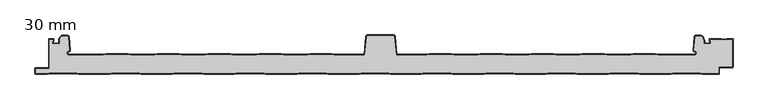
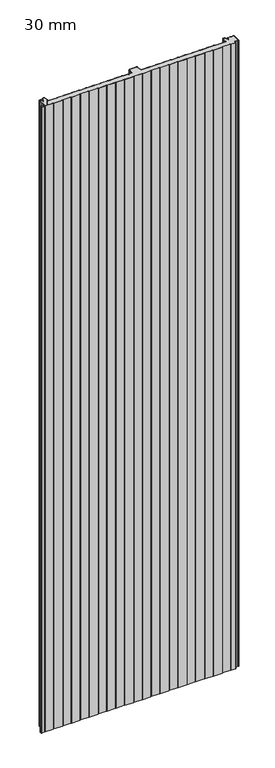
"""IFC4 building model written with IfcOpenShell, lengths in millimetres: plate geometry, HIANSA PANEL - H20.F01.002-PANELES DE CUBIERTA CON TAPAJUNTA - CUB 3GR - Panel de Muro Cortina : 30 mm."""

from ifc_helpers import new_model, si_unit, point, frame_2d, origin, origin_with_axes, place, context, project, spatial, polyline, circle_curve, trimmed, segment, composite_curve, outline, extrude, source, transform, mapped, element, save


def plate_30_mm_228ccd44(model_context):
    return source(origin(), model_context, "Body", "SweptSolid", [
        extrude(outline(polyline([(512.4706969, 30.1927851), (512.9884902, 29.425125), (512.9884902, 16.25), (512.4690523, 15.5081658), (512.4706969, 30.1927851)])), origin_with_axes(), (0.0, 0.0, 1.0), 3390.8509027),
        extrude(outline(polyline([(-486.0046625, 15.4267187), (-486.4799842, 16.25), (-486.4799842, 29.4251524), (-486.0046625, 30.2484337), (-486.0046625, 15.4267187)])), origin_with_axes(), (0.0, 0.0, 1.0), 3390.8509027),
        extrude(outline(composite_curve([segment(trimmed(circle_curve(frame_2d((-486.9813922, 9.7640482)), 0.998858), [point((-485.9825353, 9.7655207))], [point((-486.9813922, 8.7651902))], False, "CARTESIAN"), True, "CONTINUOUS"), segment(polyline([(-486.9813922, 8.7651902), (-505.4768583, 8.7651905)]), True, "CONTINUOUS"), segment(trimmed(circle_curve(frame_2d((-505.4798404, 8.2649415)), 0.5002578), [point((-505.4768583, 8.7651905))], [point((-505.9800982, 8.2649415))], True, "CARTESIAN"), True, "CONTINUOUS"), segment(polyline([(-505.9800982, 8.2649415), (-505.9800982, 1.0000206)]), True, "CONTINUOUS"), segment(trimmed(circle_curve(frame_2d((-505.4800365, 1.0000206)), 0.5000618), [point((-505.9800982, 1.0000206))], [point((-505.4800365, 0.4999588))], True, "CARTESIAN"), True, "CONTINUOUS"), segment(polyline([(-505.4800365, 0.4999588), (-488.3212473, 0.4999588), (-485.3211238, 1.5), (-445.1588462, 1.5), (-442.1588462, 0.5), (-397.3211238, 0.5), (-394.3211238, 1.5), (-354.1588462, 1.5), (-351.1588462, 0.5), (-306.3211238, 0.5), (-303.3211238, 1.5), (-263.1588462, 1.5), (-260.1588462, 0.5), (-215.3211238, 0.5), (-212.3211238, 1.5), (-172.1588462, 1.5), (-169.1588462, 0.5), (-124.3211238, 0.5), (-121.3211238, 1.5), (-81.1588462, 1.5), (-78.1588462, 0.5), (-33.3211238, 0.5), (-30.3211238, 1.5), (9.8411538, 1.5), (12.8411538, 0.5), (57.6788762, 0.5), (60.6788762, 1.5), (100.8411538, 1.5), (103.8411538, 0.5), (148.6788762, 0.5), (151.6788762, 1.5), (191.8411538, 1.5), (194.8411538, 0.5), (239.6788762, 0.5), (242.6788762, 1.5), (282.8411538, 1.5), (285.8411538, 0.5), (330.6788762, 0.5), (333.6788762, 1.5), (373.8411538, 1.5), (376.8411538, 0.5), (421.6788762, 0.5), (424.6788762, 1.5), (464.8411538, 1.5), (467.8411538, 0.5), (491.98849, 0.5)]), True, "CONTINUOUS"), segment(trimmed(circle_curve(frame_2d((491.98849, 1.0)), 0.5), [point((491.98849, 0.5))], [point((492.48849, 1.0))], True, "CARTESIAN"), True, "CONTINUOUS"), segment(polyline([(492.48849, 1.0), (492.48849, 9.1271447)]), True, "CONTINUOUS"), segment(trimmed(circle_curve(frame_2d((493.48849, 9.1271447)), 1.0), [point((492.48849, 9.1271447))], [point((493.48849, 10.1271447))], False, "CARTESIAN"), True, "CONTINUOUS"), segment(polyline([(493.48849, 10.1271447), (511.9854349, 10.1271447)]), True, "CONTINUOUS"), segment(trimmed(circle_curve(frame_2d((511.98849, 10.6271354)), 0.5), [point((511.9854349, 10.1271447))], [point((512.48849, 10.6271354))], True, "CARTESIAN"), True, "CONTINUOUS"), segment(polyline([(512.48849, 10.6271354), (512.48849, 15.535926), (512.98849, 16.25), (512.98849, 10.6271354)]), True, "CONTINUOUS"), segment(trimmed(circle_curve(frame_2d((511.98849, 10.6271354)), 1.0), [point((512.98849, 10.6271354))], [point((511.98849, 9.6271354))], False, "CARTESIAN"), True, "CONTINUOUS"), segment(polyline([(511.98849, 9.6271354), (493.4915451, 9.6271354)]), True, "CONTINUOUS"), segment(trimmed(circle_curve(frame_2d((493.48849, 9.1271447)), 0.5), [point((493.4915451, 9.6271354))], [point((492.98849, 9.1271447))], True, "CARTESIAN"), True, "CONTINUOUS"), segment(polyline([(492.98849, 9.1271447), (492.98849, 1.0)]), True, "CONTINUOUS"), segment(trimmed(circle_curve(frame_2d((491.98849, 1.0)), 1.0), [point((492.98849, 1.0))], [point((491.98849, 0.0))], False, "CARTESIAN"), True, "CONTINUOUS"), segment(polyline([(491.98849, 0.0), (467.760015, 0.0), (464.760015, 1.0), (424.760015, 1.0), (421.760015, 0.0), (376.760015, 0.0), (373.760015, 1.0), (333.760015, 1.0), (330.760015, 0.0), (285.760015, 0.0), (282.760015, 1.0), (242.760015, 1.0), (239.760015, 0.0), (194.760015, 0.0), (191.760015, 1.0), (151.760015, 1.0), (148.760015, 0.0), (103.760015, 0.0), (100.760015, 1.0), (60.760015, 1.0), (57.760015, 0.0), (12.760015, 0.0), (9.760015, 1.0), (-30.239985, 1.0), (-33.239985, 0.0), (-78.239985, 0.0), (-81.239985, 1.0), (-121.239985, 1.0), (-124.239985, 0.0), (-169.239985, 0.0), (-172.239985, 1.0), (-212.239985, 1.0), (-215.239985, 0.0), (-260.239985, 0.0), (-263.239985, 1.0), (-303.239985, 1.0), (-306.239985, 0.0), (-351.239985, 0.0), (-354.239985, 1.0), (-394.239985, 1.0), (-397.239985, 0.0), (-442.239985, 0.0), (-445.239985, 1.0), (-485.239985, 1.0), (-488.239985, 0.0), (-505.479985, 0.0)]), True, "CONTINUOUS"), segment(trimmed(circle_curve(frame_2d((-505.479985, 1.0)), 1.0), [point((-505.479985, 0.0))], [point((-506.479985, 1.0))], False, "CARTESIAN"), True, "CONTINUOUS"), segment(polyline([(-506.479985, 1.0), (-506.479985, 8.262651)]), True, "CONTINUOUS"), segment(trimmed(circle_curve(frame_2d((-505.479985, 8.262651)), 1.0), [point((-506.479985, 8.262651))], [point((-505.479985, 9.262651))], False, "CARTESIAN"), True, "CONTINUOUS"), segment(polyline([(-505.479985, 9.262651), (-486.9830395, 9.262651)]), True, "CONTINUOUS"), segment(trimmed(circle_curve(frame_2d((-486.9799843, 9.7626416)), 0.5), [point((-486.9830395, 9.262651))], [point((-486.4799843, 9.7626416))], True, "CARTESIAN"), True, "CONTINUOUS"), segment(polyline([(-486.4799843, 9.7626416), (-486.4799843, 16.25), (-485.9825353, 15.388393), (-485.9825353, 9.7655207)]), True, "CONTINUOUS")], self_intersect=False)), origin_with_axes(), (0.0, 0.0, 1.0), 3390.8509027),
        extrude(outline(composite_curve([segment(polyline([(-480.1607345, 45.8366875), (-480.1607345, 47.1797549), (-479.1700595, 49.1432549), (-479.1700595, 51.48175), (-485.9846475, 51.48175), (-485.9846475, 30.283101), (-486.4800002, 29.425125), (-486.4800002, 51.2318073)]), True, "CONTINUOUS"), segment(trimmed(circle_curve(frame_2d((-485.7368552, 51.2318073)), 0.743145), [point((-486.4800002, 51.2318073))], [point((-485.7922599, 51.972884))], False, "CARTESIAN"), True, "CONTINUOUS"), segment(polyline([(-485.7922599, 51.972884), (-479.4177693, 51.972884)]), True, "CONTINUOUS"), segment(trimmed(circle_curve(frame_2d((-479.4177693, 51.2297247)), 0.7431593), [point((-479.4177693, 51.972884))], [point((-478.6746398, 51.2363816))], False, "CARTESIAN"), True, "CONTINUOUS"), segment(polyline([(-478.6746398, 51.2363816), (-478.6746398, 49.0275379), (-479.665397, 47.063875), (-479.665397, 45.59125), (-471.61986, 45.59125), (-471.61986, 51.9404769), (-469.4341541, 54.7321629)]), True, "CONTINUOUS"), segment(trimmed(circle_curve(frame_2d((-464.3237111, 51.5831348)), 6.0027498), [point((-469.4341541, 54.7321629))], [point((-466.9668911, 56.972625))], False, "CARTESIAN"), True, "CONTINUOUS"), segment(polyline([(-466.9668911, 56.972625), (-459.1529508, 56.972625)]), True, "CONTINUOUS"), segment(trimmed(circle_curve(frame_2d((-459.1529508, 54.4937014)), 2.4789236), [point((-459.1529508, 56.972625))], [point((-456.687521, 54.752))], False, "CARTESIAN"), True, "CONTINUOUS"), segment(polyline([(-456.687521, 54.752), (-454.7873912, 35.068375)]), True, "CONTINUOUS"), segment(trimmed(circle_curve(frame_2d((-456.7403792, 34.8798462)), 1.9620666), [point((-454.7873912, 35.068375))], [point((-456.759735, 32.917875))], False, "CARTESIAN"), True, "CONTINUOUS"), segment(trimmed(circle_curve(frame_2d((-456.7790608, 30.9589375)), 1.9590328), [point((-456.759735, 32.917875))], [point((-456.759735, 29.0))], True, "CARTESIAN"), True, "CONTINUOUS"), segment(polyline([(-456.759735, 29.0), (-406.739985, 29.0), (-402.489985, 30.0), (-370.429985, 30.0), (-366.179985, 29.0), (-332.299985, 29.0), (-328.049985, 30.0), (-295.989985, 30.0), (-291.739985, 29.0), (-257.859985, 29.0), (-253.609985, 30.0), (-221.549985, 30.0), (-217.299985, 29.0), (-183.419985, 29.0), (-179.169985, 30.0), (-147.109985, 30.0), (-142.859985, 29.0), (-108.979985, 29.0), (-104.729985, 30.0), (-73.3895534, 30.0), (-69.1395534, 29.0), (-25.6851838, 29.0), (-23.3914157, 55.2178894)]), True, "CONTINUOUS"), segment(trimmed(circle_curve(frame_2d((-20.9009289, 55.0)), 2.5), [point((-23.3914157, 55.2178894))], [point((-20.9009289, 57.5))], False, "CARTESIAN"), True, "CONTINUOUS"), segment(polyline([(-20.9009289, 57.5), (17.2651042, 57.5)]), True, "CONTINUOUS"), segment(trimmed(circle_curve(frame_2d((17.2651042, 55.0000821)), 2.4999179), [point((17.2651042, 57.5))], [point((19.7555174, 55.2178706))], False, "CARTESIAN"), True, "CONTINUOUS"), segment(polyline([(19.7555174, 55.2178706), (22.0482906, 29.0), (65.9474446, 29.0), (70.1974446, 30.0), (101.7703756, 30.0), (106.0203756, 29.0), (139.9003756, 29.0), (144.1503756, 30.0), (176.2103756, 30.0), (180.4603756, 29.0), (214.3403756, 29.0), (218.5903756, 30.0), (250.6503756, 30.0), (254.9003756, 29.0), (288.7803756, 29.0), (293.0303756, 30.0), (325.0903756, 30.0), (329.3403756, 29.0), (363.2203756, 29.0), (367.4703756, 30.0), (399.5303756, 30.0), (403.7803756, 29.0), (456.5203756, 29.0)]), True, "CONTINUOUS"), segment(trimmed(circle_curve(frame_2d((456.542308, 30.9589395)), 1.9590623), [point((456.5203756, 29.0))], [point((456.520015, 32.917875))], True, "CARTESIAN"), True, "CONTINUOUS"), segment(trimmed(circle_curve(frame_2d((456.5006593, 34.8798462)), 1.9620666), [point((456.520015, 32.917875))], [point((454.5476712, 35.068375))], False, "CARTESIAN"), True, "CONTINUOUS"), segment(polyline([(454.5476712, 35.068375), (456.4478011, 54.752)]), True, "CONTINUOUS"), segment(trimmed(circle_curve(frame_2d((458.9132308, 54.4937014)), 2.4789236), [point((456.4478011, 54.752))], [point((458.9132308, 56.972625))], False, "CARTESIAN"), True, "CONTINUOUS"), segment(polyline([(458.9132308, 56.972625), (466.7271712, 56.972625)]), True, "CONTINUOUS"), segment(trimmed(circle_curve(frame_2d((464.0839912, 51.5831348)), 6.0027498), [point((466.7271712, 56.972625))], [point((469.1944341, 54.7321629))], False, "CARTESIAN"), True, "CONTINUOUS"), segment(polyline([(469.1944341, 54.7321629), (471.38014, 48.8899572), (471.38014, 45.592625), (479.185403, 45.592625), (479.185403, 47.06525), (478.194728, 49.02875), (478.194728, 51.2363125)]), True, "CONTINUOUS"), segment(trimmed(circle_curve(frame_2d((478.9377343, 51.2295883)), 0.7430367), [point((478.194728, 51.2363125))], [point((478.9377343, 51.972625))], False, "CARTESIAN"), True, "CONTINUOUS"), segment(polyline([(478.9377343, 51.972625), (495.5315405, 51.972625), (499.4942405, 50.990875), (503.4569405, 51.972625), (512.3449935, 51.972625)]), True, "CONTINUOUS"), segment(trimmed(circle_curve(frame_2d((512.2454838, 51.2363125)), 0.7430063), [point((512.3449935, 51.972625))], [point((512.98849, 51.2363125))], False, "CARTESIAN"), True, "CONTINUOUS"), segment(polyline([(512.98849, 51.2363125), (512.98849, 29.425125), (512.4931525, 30.159493), (512.4931525, 51.48175), (503.5179194, 51.48175), (499.4942405, 50.4848926), (495.4705617, 51.48175), (478.6900655, 51.48175), (478.6900655, 49.1446299), (479.6807405, 47.1811299), (479.6807405, 45.8380625)]), True, "CONTINUOUS"), segment(trimmed(circle_curve(frame_2d((478.9377343, 45.8447867)), 0.7430367), [point((479.6807405, 45.8380625))], [point((478.9377343, 45.10175))], False, "CARTESIAN"), True, "CONTINUOUS"), segment(polyline([(478.9377343, 45.10175), (471.6278088, 45.10175)]), True, "CONTINUOUS"), segment(trimmed(circle_curve(frame_2d((471.6211452, 45.8380625)), 0.7363427), [point((471.6278088, 45.10175))], [point((470.8848025, 45.8380625))], False, "CARTESIAN"), True, "CONTINUOUS"), segment(polyline([(470.8848025, 45.8380625), (470.8848025, 48.8899572), (468.7009815, 54.6893803)]), True, "CONTINUOUS"), segment(trimmed(circle_curve(frame_2d((464.100425, 51.6061058)), 5.5382039), [point((468.7009815, 54.6893803))], [point((466.7271712, 56.48175))], True, "CARTESIAN"), True, "CONTINUOUS"), segment(polyline([(466.7271712, 56.48175), (458.9132308, 56.48175)]), True, "CONTINUOUS"), segment(trimmed(circle_curve(frame_2d((458.8972089, 54.5163993)), 1.965416), [point((458.9132308, 56.48175))], [point((456.940887, 54.70525))], True, "CARTESIAN"), True, "CONTINUOUS"), segment(polyline([(456.940887, 54.70525), (455.0407572, 35.021625)]), True, "CONTINUOUS"), segment(trimmed(circle_curve(frame_2d((456.5066883, 34.8813199)), 1.4726302), [point((455.0407572, 35.021625))], [point((456.520015, 33.40875))], True, "CARTESIAN"), True, "CONTINUOUS"), segment(trimmed(circle_curve(frame_2d((456.542227, 30.954375)), 2.4544755), [point((456.520015, 33.40875))], [point((456.520015, 28.5))], False, "CARTESIAN"), True, "CONTINUOUS"), segment(polyline([(456.520015, 28.5), (403.7219839, 28.5), (399.4719839, 29.5), (367.5280462, 29.5), (363.2780462, 28.5), (329.2819839, 28.5), (325.0319839, 29.5), (293.0880462, 29.5), (288.8380462, 28.5), (254.8419839, 28.5), (250.5919839, 29.5), (218.6480462, 29.5), (214.3980462, 28.5), (180.4019839, 28.5), (176.1519839, 29.5), (144.2080462, 29.5), (139.9580462, 28.5), (105.9619839, 28.5), (101.7119839, 29.5), (70.2558363, 29.5), (66.0058363, 28.5), (21.5901077, 28.5), (19.2574184, 55.1743115)]), True, "CONTINUOUS"), segment(trimmed(circle_curve(frame_2d((17.2651042, 55.0000821)), 1.9999179), [point((19.2574184, 55.1743115))], [point((17.2651042, 57.0))], True, "CARTESIAN"), True, "CONTINUOUS"), segment(polyline([(17.2651042, 57.0), (-20.9009289, 57.0)]), True, "CONTINUOUS"), segment(trimmed(circle_curve(frame_2d((-20.9009289, 55.0)), 2.0), [point((-20.9009289, 57.0))], [point((-22.8933183, 55.1743115))], True, "CARTESIAN"), True, "CONTINUOUS"), segment(polyline([(-22.8933183, 55.1743115), (-25.2270182, 28.5), (-69.1979451, 28.5), (-73.4479451, 29.5), (-104.6719538, 29.5), (-108.9219538, 28.5), (-142.9180161, 28.5), (-147.1680161, 29.5), (-179.1119538, 29.5), (-183.3619538, 28.5), (-217.3580161, 28.5), (-221.6080161, 29.5), (-253.5519538, 29.5), (-257.8019538, 28.5), (-291.7980161, 28.5), (-296.0480161, 29.5), (-327.9919538, 29.5), (-332.2419538, 28.5), (-366.2380161, 28.5), (-370.4880161, 29.5), (-402.4319538, 29.5), (-406.6819538, 28.5), (-456.759735, 28.5)]), True, "CONTINUOUS"), segment(trimmed(circle_curve(frame_2d((-456.781947, 30.954375)), 2.4544755), [point((-456.759735, 28.5))], [point((-456.759735, 33.40875))], False, "CARTESIAN"), True, "CONTINUOUS"), segment(trimmed(circle_curve(frame_2d((-456.7464083, 34.8813199)), 1.4726302), [point((-456.759735, 33.40875))], [point((-455.2804771, 35.021625))], True, "CARTESIAN"), True, "CONTINUOUS"), segment(polyline([(-455.2804771, 35.021625), (-457.180607, 54.70525)]), True, "CONTINUOUS"), segment(trimmed(circle_curve(frame_2d((-459.1369289, 54.5163993)), 1.965416), [point((-457.180607, 54.70525))], [point((-459.1529508, 56.48175))], True, "CARTESIAN"), True, "CONTINUOUS"), segment(polyline([(-459.1529508, 56.48175), (-466.9668911, 56.48175)]), True, "CONTINUOUS"), segment(trimmed(circle_curve(frame_2d((-464.340145, 51.6061058)), 5.5382039), [point((-466.9668911, 56.48175))], [point((-468.9407015, 54.6893803))], True, "CARTESIAN"), True, "CONTINUOUS"), segment(polyline([(-468.9407015, 54.6893803), (-471.1245225, 51.9404769), (-471.1245225, 45.8366875)]), True, "CONTINUOUS"), segment(trimmed(circle_curve(frame_2d((-471.8608651, 45.8366875)), 0.7363427), [point((-471.1245225, 45.8366875))], [point((-471.8675287, 45.100375))], False, "CARTESIAN"), True, "CONTINUOUS"), segment(polyline([(-471.8675287, 45.100375), (-479.4177282, 45.100375)]), True, "CONTINUOUS"), segment(trimmed(circle_curve(frame_2d((-479.4177282, 45.8434117)), 0.7430367), [point((-479.4177282, 45.100375))], [point((-480.1607345, 45.8366875))], False, "CARTESIAN"), True, "CONTINUOUS")], self_intersect=False)), origin_with_axes(), (0.0, 0.0, 1.0), 3390.8509027),
        extrude(outline(composite_curve([segment(trimmed(circle_curve(frame_2d((-479.4377434, 45.8434117)), 0.7430367), [point((-480.1807496, 45.8366875))], [point((-479.4377434, 45.100375))], True, "CARTESIAN"), True, "CONTINUOUS"), segment(polyline([(-479.4377434, 45.100375), (-471.8875439, 45.100375)]), True, "CONTINUOUS"), segment(trimmed(circle_curve(frame_2d((-471.8808803, 45.8366875)), 0.7363427), [point((-471.8875439, 45.100375))], [point((-471.1445377, 45.8366875))], True, "CARTESIAN"), True, "CONTINUOUS"), segment(polyline([(-471.1445377, 45.8366875), (-471.1445377, 51.9404769), (-468.9607167, 54.6893803)]), True, "CONTINUOUS"), segment(trimmed(circle_curve(frame_2d((-464.3601602, 51.6061058)), 5.5382039), [point((-468.9607167, 54.6893803))], [point((-466.9869063, 56.48175))], False, "CARTESIAN"), True, "CONTINUOUS"), segment(polyline([(-466.9869063, 56.48175), (-459.172966, 56.48175)]), True, "CONTINUOUS"), segment(trimmed(circle_curve(frame_2d((-459.156944, 54.5163993)), 1.965416), [point((-459.172966, 56.48175))], [point((-457.2006221, 54.70525))], False, "CARTESIAN"), True, "CONTINUOUS"), segment(polyline([(-457.2006221, 54.70525), (-455.3004923, 35.021625)]), True, "CONTINUOUS"), segment(trimmed(circle_curve(frame_2d((-456.7664235, 34.8813199)), 1.4726302), [point((-455.3004923, 35.021625))], [point((-456.7797502, 33.40875))], False, "CARTESIAN"), True, "CONTINUOUS"), segment(trimmed(circle_curve(frame_2d((-456.8019621, 30.954375)), 2.4544755), [point((-456.7797502, 33.40875))], [point((-456.7797502, 28.5))], True, "CARTESIAN"), True, "CONTINUOUS"), segment(polyline([(-456.7797502, 28.5), (-406.701969, 28.5), (-402.451969, 29.5), (-370.5080313, 29.5), (-366.2580313, 28.5), (-332.261969, 28.5), (-328.011969, 29.5), (-296.0680313, 29.5), (-291.8180313, 28.5), (-257.821969, 28.5), (-253.571969, 29.5), (-221.6280313, 29.5), (-217.3780313, 28.5), (-183.381969, 28.5), (-179.131969, 29.5), (-147.1880313, 29.5), (-142.9380313, 28.5), (-108.941969, 28.5), (-104.691969, 29.5), (-73.4679603, 29.5), (-69.2179603, 28.5), (-25.2470334, 28.5), (-22.9133335, 55.1743115)]), True, "CONTINUOUS"), segment(trimmed(circle_curve(frame_2d((-20.9209441, 55.0)), 2.0), [point((-22.9133335, 55.1743115))], [point((-20.9209441, 57.0))], False, "CARTESIAN"), True, "CONTINUOUS"), segment(polyline([(-20.9209441, 57.0), (17.245089, 57.0)]), True, "CONTINUOUS"), segment(trimmed(circle_curve(frame_2d((17.245089, 55.0000821)), 1.9999179), [point((17.245089, 57.0))], [point((19.2374032, 55.1743115))], False, "CARTESIAN"), True, "CONTINUOUS"), segment(polyline([(19.2374032, 55.1743115), (21.5700925, 28.5), (65.9858211, 28.5), (70.2358211, 29.5), (101.6919687, 29.5), (105.9419687, 28.5), (139.938031, 28.5), (144.188031, 29.5), (176.1319687, 29.5), (180.3819687, 28.5), (214.378031, 28.5), (218.628031, 29.5), (250.5719687, 29.5), (254.8219687, 28.5), (288.818031, 28.5), (293.068031, 29.5), (325.0119687, 29.5), (329.2619687, 28.5), (363.258031, 28.5), (367.508031, 29.5), (399.4519687, 29.5), (403.7019687, 28.5), (456.4999998, 28.5)]), True, "CONTINUOUS"), segment(trimmed(circle_curve(frame_2d((456.5222118, 30.954375)), 2.4544755), [point((456.4999998, 28.5))], [point((456.4999998, 33.40875))], True, "CARTESIAN"), True, "CONTINUOUS"), segment(trimmed(circle_curve(frame_2d((456.4866732, 34.8813199)), 1.4726302), [point((456.4999998, 33.40875))], [point((455.020742, 35.021625))], False, "CARTESIAN"), True, "CONTINUOUS"), segment(polyline([(455.020742, 35.021625), (456.9208718, 54.70525)]), True, "CONTINUOUS"), segment(trimmed(circle_curve(frame_2d((458.8771937, 54.5163993)), 1.965416), [point((456.9208718, 54.70525))], [point((458.8932157, 56.48175))], False, "CARTESIAN"), True, "CONTINUOUS"), segment(polyline([(458.8932157, 56.48175), (466.707156, 56.48175)]), True, "CONTINUOUS"), segment(trimmed(circle_curve(frame_2d((464.0804099, 51.6061058)), 5.5382039), [point((466.707156, 56.48175))], [point((468.6809664, 54.6893803))], False, "CARTESIAN"), True, "CONTINUOUS"), segment(polyline([(468.6809664, 54.6893803), (470.8647873, 48.8899572), (470.8647873, 45.8380625)]), True, "CONTINUOUS"), segment(trimmed(circle_curve(frame_2d((471.60113, 45.8380625)), 0.7363427), [point((470.8647873, 45.8380625))], [point((471.6077936, 45.10175))], True, "CARTESIAN"), True, "CONTINUOUS"), segment(polyline([(471.6077936, 45.10175), (478.9177191, 45.10175)]), True, "CONTINUOUS"), segment(trimmed(circle_curve(frame_2d((478.9177191, 45.8447867)), 0.7430367), [point((478.9177191, 45.10175))], [point((479.6607254, 45.8380625))], True, "CARTESIAN"), True, "CONTINUOUS"), segment(polyline([(479.6607254, 45.8380625), (479.6607254, 47.1811299), (478.6700504, 49.1446299), (478.6700504, 51.48175), (495.4505465, 51.48175), (499.4742254, 50.4848926), (503.4979042, 51.48175), (512.473081, 51.48175), (512.4684748, 10.6270942)]), True, "CONTINUOUS"), segment(trimmed(circle_curve(frame_2d((511.9684748, 10.6270942)), 0.5), [point((512.4684748, 10.6270942))], [point((511.9654197, 10.1271035))], False, "CARTESIAN"), True, "CONTINUOUS"), segment(polyline([(511.9654197, 10.1271035), (493.4684748, 10.1271035)]), True, "CONTINUOUS"), segment(trimmed(circle_curve(frame_2d((493.4684748, 9.1271035)), 1.0), [point((493.4684748, 10.1271035))], [point((492.4684748, 9.1271035))], True, "CARTESIAN"), True, "CONTINUOUS"), segment(polyline([(492.4684748, 9.1271035), (492.4684748, 0.9999588)]), True, "CONTINUOUS"), segment(trimmed(circle_curve(frame_2d((491.9684748, 0.9999588)), 0.5), [point((492.4684748, 0.9999588))], [point((491.9684748, 0.4999588))], False, "CARTESIAN"), True, "CONTINUOUS"), segment(polyline([(491.9684748, 0.4999588), (467.8211387, 0.4999588), (464.8211387, 1.4999588), (424.658861, 1.4999588), (421.658861, 0.4999588), (376.8211387, 0.4999588), (373.8211387, 1.4999588), (333.658861, 1.4999588), (330.658861, 0.4999588), (285.8211387, 0.4999588), (282.8211387, 1.4999588), (242.658861, 1.4999588), (239.658861, 0.4999588), (194.8211387, 0.4999588), (191.8211387, 1.4999588), (151.658861, 1.4999588), (148.658861, 0.4999588), (103.8211387, 0.4999588), (100.8211387, 1.4999588), (60.658861, 1.4999588), (57.658861, 0.4999588), (12.8211387, 0.4999588), (9.8211387, 1.4999588), (-30.341139, 1.4999588), (-33.341139, 0.4999588), (-78.1788613, 0.4999588), (-81.1788613, 1.4999588), (-121.341139, 1.4999588), (-124.341139, 0.4999588), (-169.1788613, 0.4999588), (-172.1788613, 1.4999588), (-212.341139, 1.4999588), (-215.341139, 0.4999588), (-260.1788613, 0.4999588), (-263.1788613, 1.4999588), (-303.341139, 1.4999588), (-306.341139, 0.4999588), (-351.1788613, 0.4999588), (-354.1788613, 1.4999588), (-394.341139, 1.4999588), (-397.341139, 0.4999588), (-442.1788613, 0.4999588), (-445.1789848, 1.5), (-485.341139, 1.5), (-488.3412625, 0.4999588), (-505.5000516, 0.4999588)]), True, "CONTINUOUS"), segment(trimmed(circle_curve(frame_2d((-505.5000516, 1.0000206)), 0.5000618), [point((-505.5000516, 0.4999588))], [point((-506.0001134, 1.0000206))], False, "CARTESIAN"), True, "CONTINUOUS"), segment(polyline([(-506.0001134, 1.0000206), (-506.0001134, 8.2649415)]), True, "CONTINUOUS"), segment(trimmed(circle_curve(frame_2d((-505.4998556, 8.2649415)), 0.5002578), [point((-506.0001134, 8.2649415))], [point((-505.4968734, 8.7651905))], False, "CARTESIAN"), True, "CONTINUOUS"), segment(polyline([(-505.4968734, 8.7651905), (-487.0014074, 8.7651905)]), True, "CONTINUOUS"), segment(trimmed(circle_curve(frame_2d((-487.0014074, 9.7640482)), 0.9988578), [point((-487.0014074, 8.7651905))], [point((-486.0046627, 9.8289851))], True, "CARTESIAN"), True, "CONTINUOUS"), segment(polyline([(-486.0046627, 9.8289851), (-486.0046627, 51.48175), (-479.1900746, 51.48175), (-479.1900746, 49.1432549), (-480.1807496, 47.1797549), (-480.1807496, 45.8366875)]), True, "CONTINUOUS")], self_intersect=False)), origin_with_axes(), (0.0, 0.0, 1.0), 3390.8509027),
    ])


if __name__ == "__main__":
    model = new_model("IFC4")
    model_context = context("Model", 3, world=origin())
    ifc_project = project(units=[si_unit("LENGTHUNIT", "METRE", prefix="MILLI")], contexts=[model_context])
    site = spatial("IfcSite", under=ifc_project)
    building = spatial("IfcBuilding", under=site)
    placement = place(None, origin())
    plate_30_mm_shape = plate_30_mm_228ccd44(model_context)
    element("IfcPlate", 1, ObjectType="HIANSA PANEL - H20.F01.002-PANELES DE CUBIERTA CON TAPAJUNTA - CUB 3GR - Panel de Muro Cortina : 30 mm", at=placement, inside=building, context=model_context, shape_type="MappedRepresentation", body=[
        mapped(plate_30_mm_shape, transform((0.0, 0.0, 0.0), x_axis=(1.0, 0.0, 0.0), y_axis=(0.0, 1.0, 0.0), z_axis=(0.0, 0.0, 1.0))),
    ])
    save(model, "model.ifc")
